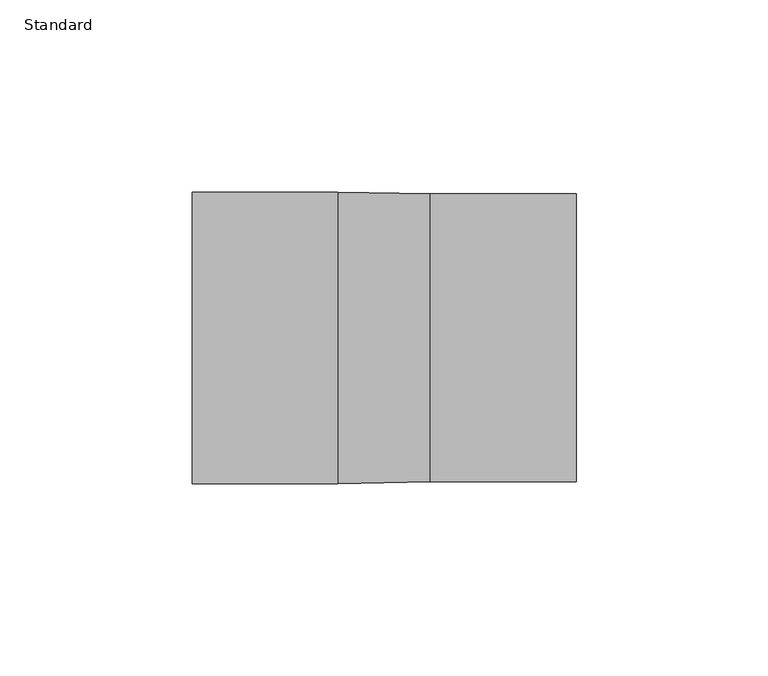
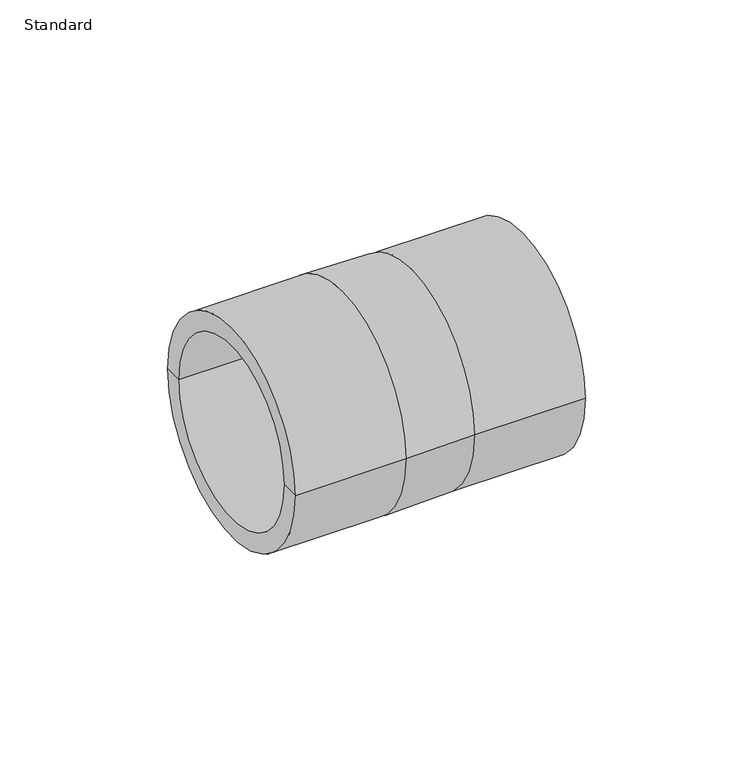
"""IFC4 building model written with IfcOpenShell, lengths in millimetres: pipe fitting geometry, Durapipe_PipeFitting_PVC_Reducers : Standard."""

from ifc_helpers import new_model, si_unit, frame, origin, place, context, project, spatial, polyline, circle_curve, source, transform, mapped, element, save
from ifc_brep_helpers import plane_surface, cylinder_surface, revolved_surface, advanced_brep


def standard_99a5edec(model_context):
    return source(origin(), model_context, "Body", "AdvancedBrep", [
        advanced_brep(
        [(-50.0, -38.0, 0.0), (-50.0, 38.0, 0.0), (-12.0, 38.0, 0.0), (-12.0, -38.0, 0.0), (-50.0, -31.5, 0.0), (-50.0, 31.5, 0.0), (50.0, -37.5, 0.0), (50.0, 37.5, 0.0), (50.0, 31.5, 0.0), (50.0, -31.5, 0.0), (12.0, -37.5, 0.0), (12.0, 37.5, 0.0), (-12.0, -31.5, 0.0), (-12.0, 31.5, 0.0), (-12.0, 0.0, 0.0), (12.0, -31.5, 0.0), (12.0, 31.5, 0.0), (12.0, 0.0, 0.0)],
        [
            (0, 1, circle_curve(frame((-50.0, 0.0, 0.0), z_axis=(1.0, 0.0, 0.0), x_axis=(0.0, 1.0, 0.0)), 38.0)),
            (1, 2),
            (2, 3, circle_curve(frame((-12.0, 0.0, 0.0), z_axis=(-1.0, 0.0, 0.0), x_axis=(0.0, 1.0, 0.0)), 38.0)),
            (3, 0),
            (1, 0, circle_curve(frame((-50.0, 0.0, 0.0), z_axis=(1.0, 0.0, 0.0), x_axis=(0.0, 1.0, 0.0)), 38.0)),
            (3, 2, circle_curve(frame((-12.0, 0.0, 0.0), z_axis=(-1.0, 0.0, 0.0), x_axis=(0.0, 1.0, 0.0)), 38.0)),
            (4, 5, circle_curve(frame((-50.0, 0.0, 0.0), z_axis=(1.0, 0.0, 0.0), x_axis=(0.0, 1.0, 0.0)), 31.5)),
            (5, 1),
            (0, 4),
            (5, 4, circle_curve(frame((-50.0, 0.0, 0.0), z_axis=(1.0, 0.0, 0.0), x_axis=(0.0, 1.0, 0.0)), 31.5)),
            (6, 7, circle_curve(frame((50.0, 0.0, 0.0), z_axis=(1.0, 0.0, 0.0), x_axis=(0.0, 1.0, 0.0)), 37.5)),
            (7, 8),
            (8, 9, circle_curve(frame((50.0, 0.0, 0.0), z_axis=(-1.0, 0.0, 0.0), x_axis=(0.0, 1.0, 0.0)), 31.5)),
            (9, 6),
            (7, 6, circle_curve(frame((50.0, 0.0, 0.0), z_axis=(1.0, 0.0, 0.0), x_axis=(0.0, 1.0, 0.0)), 37.5)),
            (9, 8, circle_curve(frame((50.0, 0.0, 0.0), z_axis=(-1.0, 0.0, 0.0), x_axis=(0.0, 1.0, 0.0)), 31.5)),
            (10, 11, circle_curve(frame((12.0, 0.0, 0.0), z_axis=(1.0, 0.0, 0.0), x_axis=(0.0, 1.0, 0.0)), 37.5)),
            (11, 7),
            (6, 10),
            (11, 10, circle_curve(frame((12.0, 0.0, 0.0), z_axis=(1.0, 0.0, 0.0), x_axis=(0.0, 1.0, 0.0)), 37.5)),
            (2, 11),
            (10, 3),
            (12, 13, circle_curve(frame((-12.0, 0.0, 0.0), z_axis=(1.0, 0.0, 0.0), x_axis=(0.0, 1.0, 0.0)), 31.5)),
            (13, 5),
            (4, 12),
            (13, 12, circle_curve(frame((-12.0, 0.0, 0.0), z_axis=(1.0, 0.0, 0.0), x_axis=(0.0, 1.0, 0.0)), 31.5)),
            (14, 13),
            (12, 14),
            (15, 16, circle_curve(frame((12.0, 0.0, 0.0), z_axis=(1.0, 0.0, 0.0), x_axis=(0.0, 1.0, 0.0)), 31.5)),
            (16, 17),
            (17, 15),
            (16, 15, circle_curve(frame((12.0, 0.0, 0.0), z_axis=(1.0, 0.0, 0.0), x_axis=(0.0, 1.0, 0.0)), 31.5)),
            (8, 16),
            (15, 9),
        ],
        [
            cylinder_surface(frame((-50.0, 0.0, 0.0), z_axis=(-1.0, 0.0, 0.0), x_axis=(0.0, 1.0, 0.0)), 38.0),
            plane_surface(frame((-50.0, 0.0, 0.0), z_axis=(-1.0, 0.0, 0.0), x_axis=(0.0, 1.0, 0.0))),
            plane_surface(frame((50.0, 0.0, 0.0), z_axis=(1.0, 0.0, 0.0), x_axis=(0.0, 1.0, 0.0))),
            cylinder_surface(frame((-50.0, 0.0, 0.0), z_axis=(-1.0, 0.0, 0.0), x_axis=(0.0, 1.0, 0.0)), 37.5),
            revolved_surface(polyline([(12.0, 37.5, 0.0), (-12.0, 38.0, 0.0)]), (-50.0, 0.0, 0.0), (-1.0, 0.0, 0.0)),
            revolved_surface(polyline([(-50.0, 31.5, 0.0), (-12.0, 31.5, 0.0)]), (-50.0, 0.0, 0.0), (-1.0, 0.0, 0.0)),
            plane_surface(frame((-12.0, 0.0, 0.0), z_axis=(-1.0, 0.0, 0.0), x_axis=(0.0, 1.0, 0.0))),
            plane_surface(frame((12.0, 0.0, 0.0), z_axis=(1.0, 0.0, 0.0), x_axis=(0.0, 1.0, 0.0))),
            revolved_surface(polyline([(12.0, 31.5, 0.0), (50.0, 31.5, 0.0)]), (-50.0, 0.0, 0.0), (-1.0, 0.0, 0.0)),
        ],
        [
            (0, [[1, 2, 3, 4]]),
            (0, [[5, -4, 6, -2]]),
            (1, [[7, 8, -1, 9]]),
            (1, [[10, -9, -5, -8]]),
            (2, [[11, 12, 13, 14]]),
            (2, [[15, -14, 16, -12]]),
            (3, [[17, 18, -11, 19]]),
            (3, [[20, -19, -15, -18]]),
            (4, [[-3, 21, -17, 22]]),
            (4, [[-6, -22, -20, -21]]),
            (5, [[23, 24, -7, 25]]),
            (5, [[26, -25, -10, -24]]),
            (6, [[27, -23, 28]]),
            (6, [[-28, -26, -27]]),
            (7, [[29, 30, 31]]),
            (7, [[32, -31, -30]]),
            (8, [[-13, 33, -29, 34]]),
            (8, [[-16, -34, -32, -33]]),
        ],
    ),
    ])


if __name__ == "__main__":
    model = new_model("IFC4")
    model_context = context("Model", 3, world=origin())
    ifc_project = project(units=[si_unit("LENGTHUNIT", "METRE", prefix="MILLI")], contexts=[model_context])
    site = spatial("IfcSite", under=ifc_project)
    building = spatial("IfcBuilding", under=site)
    placement = place(None, origin())
    standard_shape = standard_99a5edec(model_context)
    element("IfcPipeFitting", 1, ObjectType="Durapipe_PipeFitting_PVC_Reducers : Standard", at=placement, inside=building, context=model_context, shape_type="MappedRepresentation", body=[
        mapped(standard_shape, transform((0.0, 0.0, 0.0), x_axis=(1.0, 0.0, 0.0), y_axis=(0.0, 1.0, 0.0), z_axis=(0.0, 0.0, 1.0))),
    ])
    save(model, "model.ifc")
